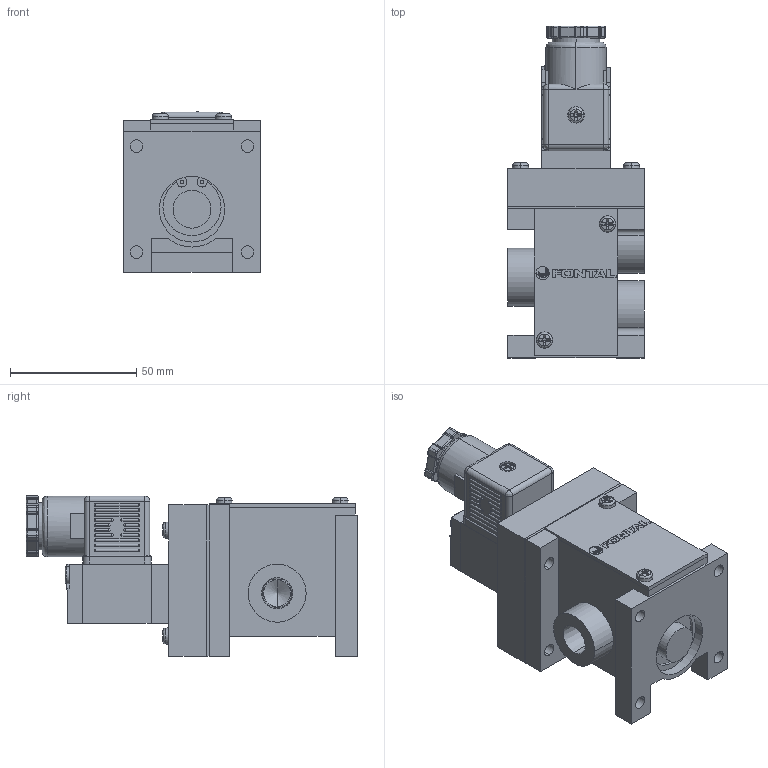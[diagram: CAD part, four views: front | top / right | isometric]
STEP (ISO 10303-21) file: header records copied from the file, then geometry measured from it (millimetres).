
FILE_DESCRIPTION (( 'STEP AP203' ), '1' );
FILE_NAME ('PMS2308#-02-#C#.STEP', '2016-03-09T07:49:01', ( 'Sam Lin' ), ( '' ), 'SwSTEP 2.0', 'SolidWorks 2013', '' );
FILE_SCHEMA (( 'CONFIG_CONTROL_DESIGN' ));
Length unit declared in the file: metre
Products named in the file (15): PMS2308-1(1-4); PMS2308-4; PMS2308-2; PMS2308-5; PM06-C3-M4_1; PMS2308-6; PM06-C1_1; PMS2308#-02-#C#; PM06-C4_1; PM06-C6-M3_1; PM06-C5_1; PMS2306-6(C); PM08-MARK; PMS2306-5; PMS2308-3
Assembly tree (21 placements, depth 2):
  PMS2308#-02-#C#
    PMS2308-2
    PM08-MARK
    PMS2308-3
    PMS2308-4
    PM06-C3-M4_1  x7
    PM06-C1_1
    PM06-C4_1
    PM06-C6-M3_1  x2
    PM06-C5_1
    PMS2306-6(C)
    PMS2306-5
    PMS2308-1(1-4)
    PMS2308-5
    PMS2308-6
Bounding box: 54 x 131.5 x 63.64 mm (x, y, z)
Volume: 230535.7 mm3; surface area: 65685.1 mm2
Topology: 27 solids, 27 shells, 905 faces, 2302 edges, 1354 vertices
Faces by surface type: plane 369, cylinder 243, bspline 206, cone 87
Entity records: 27741 total; most frequent: CARTESIAN_POINT 11226, ORIENTED_EDGE 3152, DIRECTION 2912, EDGE_CURVE 1576, AXIS2_PLACEMENT_3D 1071, VERTEX_POINT 997, LINE 770, VECTOR 770
